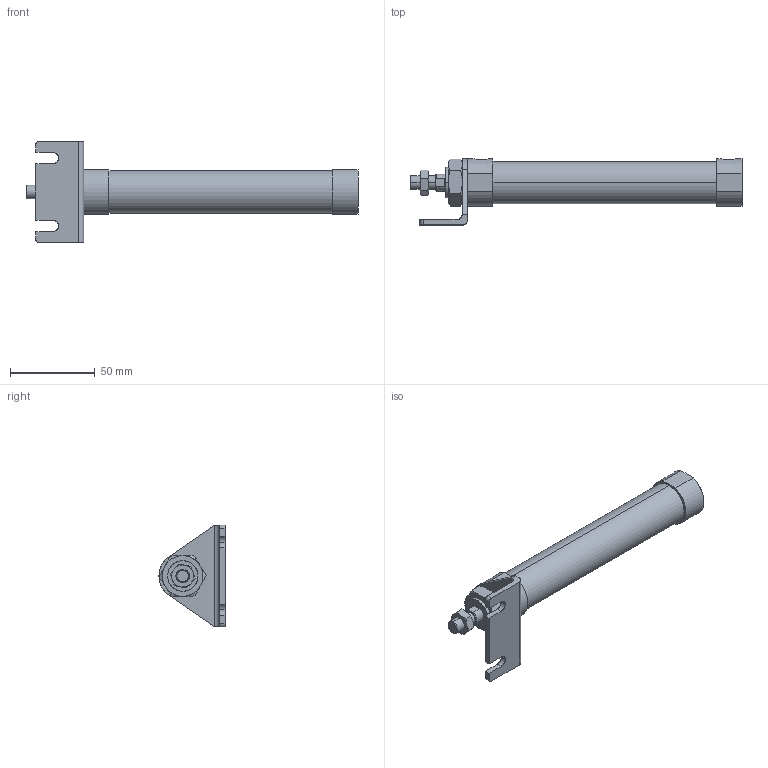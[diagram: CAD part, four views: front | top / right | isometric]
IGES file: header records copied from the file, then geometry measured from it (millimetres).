
Start section: SolidWorks IGES file using analytic representation for surfaces
Global section: file name: C:\Users\Toshiba\Desktop\JGND2-20-100-L.IGS; native system: SolidWorks 2014; preprocessor: SolidWorks 2014; author: Toshiba; date: 160804.103014; units: millimetre
Bounding box: 196 x 39 x 60 mm (x, y, z)
Surface area: 24689.3 mm2 (no closed solid volume)
Topology: 0 solids, 0 shells, 111 faces, 1814 edges, 1814 vertices
Faces by surface type: bspline 73, revolution 38
